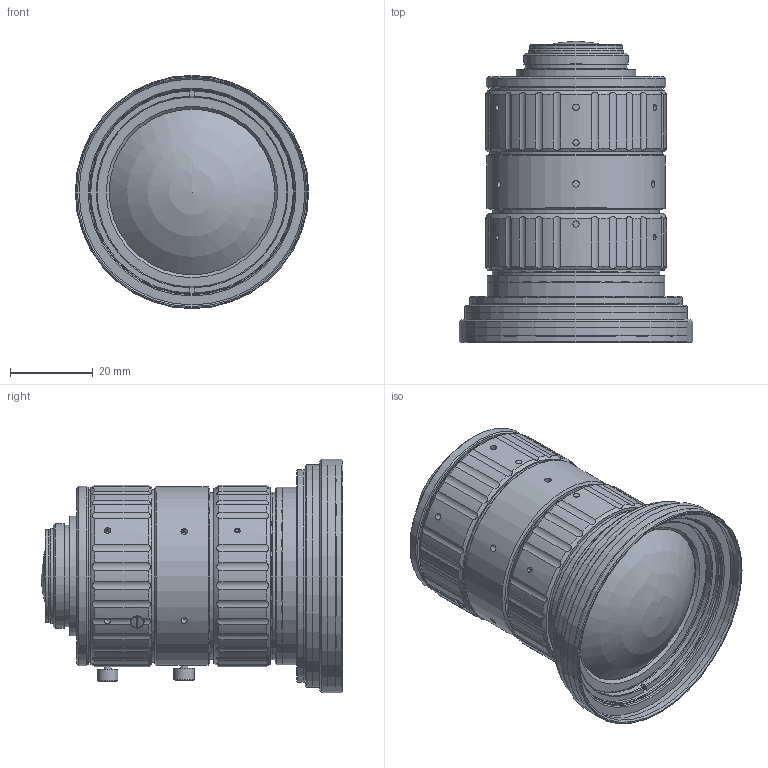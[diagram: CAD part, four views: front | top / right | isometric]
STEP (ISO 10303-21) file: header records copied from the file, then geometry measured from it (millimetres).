
FILE_DESCRIPTION(/* description */ ('Unknown'),/* implementation_level */ '2;1');
FILE_NAME(/* name */ 'F1228-MPT_210401',/* time_stamp */ '2021-04-01T10:11:36+09:00',/* author */ ('Unknown'),/* organization */ ('Unknown'),/* preprocessor_version */ 'ST-DEVELOPER v16.7',/* originating_system */ 'DEX',/* authorisation */ $);
FILE_SCHEMA (('AUTOMOTIVE_DESIGN {1 0 10303 214 3 1 1}'));
Length unit declared in the file: millimetre
Products named in the file (3): F1228-MPT_210401; F1228-MPT_Infinity; F1228-MPT_Mechanical limit
Assembly tree (2 placements, depth 2):
  F1228-MPT_210401
    F1228-MPT_Infinity
    F1228-MPT_Mechanical limit
Bounding box: 56.5 x 72.99 x 56.5 mm (x, y, z)
Volume: 185277.8 mm3; surface area: 40240.3 mm2
Topology: 2 solids, 8 shells, 796 faces, 1960 edges, 1298 vertices
Faces by surface type: cylinder 376, plane 328, cone 78, torus 10, sphere 4
Full cylindrical faces by diameter (mm): 1.321 x6, 1.5 x6, 1.567 x28, 1.7 x10, 2 x2, 2.2 x6, 2.5 x8, 2.8 x2, 3 x2, 3.4 x2, 3.5 x6, 4.999 x4, 19 x2, 22.399 x2, 22.999 x2, 24.536 x2, 25.399 x2, 28.999 x2, 33.6 x2, 40.1 x2, 40.4 x2, 40.501 x2, 41.501 x2, 41.7 x4, 42.3 x4, 43 x2, 43.2 x2, 43.5 x2, 46 x2, 49 x2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
Entity records: 28519 total; most frequent: CARTESIAN_POINT 5493, DIRECTION 3542, ORIENTED_EDGE 3296, EDGE_CURVE 1648, AXIS2_PLACEMENT_3D 1369, VERTEX_POINT 1208, EDGE_LOOP 1144, FACE_BOUND 1144
